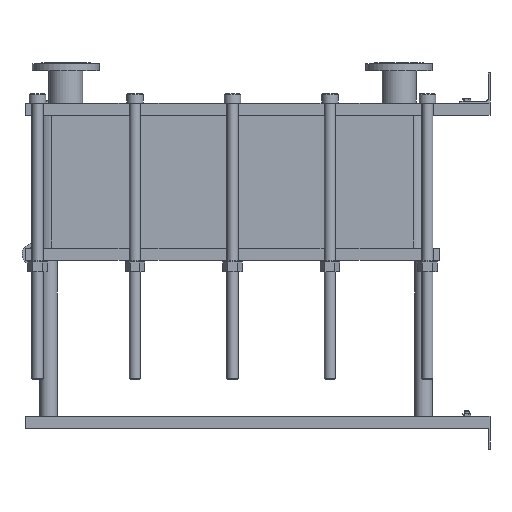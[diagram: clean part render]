
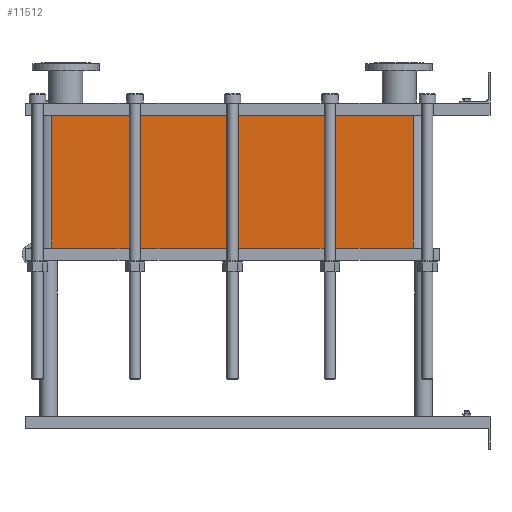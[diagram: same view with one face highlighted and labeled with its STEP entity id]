
A CAD part, left-side view. The second image highlights one B-rep face of the part: STEP entity #11512.
In plain terms, the highlighted planar face has unit normal (-1, 0, 0).
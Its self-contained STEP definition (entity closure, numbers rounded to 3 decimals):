
#1129=LINE('',#23232,#2102);
#1130=LINE('',#23236,#2103);
#1131=LINE('',#23238,#2104);
#1132=LINE('',#23239,#2105);
#2102=VECTOR('',#15887,10.);
#2103=VECTOR('',#15892,10.);
#2104=VECTOR('',#15893,10.);
#2105=VECTOR('',#15894,10.);
#3267=FACE_OUTER_BOUND('',#4093,.T.);
#4093=EDGE_LOOP('',(#10103,#10104,#10105,#10106));
#5642=VERTEX_POINT('',#23229);
#5643=VERTEX_POINT('',#23231);
#5644=VERTEX_POINT('',#23235);
#5645=VERTEX_POINT('',#23237);
#7159=EDGE_CURVE('',#5643,#5642,#1129,.T.);
#7161=EDGE_CURVE('',#5642,#5644,#1130,.T.);
#7162=EDGE_CURVE('',#5645,#5644,#1131,.T.);
#7163=EDGE_CURVE('',#5645,#5643,#1132,.T.);
#10103=ORIENTED_EDGE('',*,*,#7161,.T.);
#10104=ORIENTED_EDGE('',*,*,#7162,.F.);
#10105=ORIENTED_EDGE('',*,*,#7163,.T.);
#10106=ORIENTED_EDGE('',*,*,#7159,.T.);
#10857=PLANE('',#12751);
#11512=ADVANCED_FACE('',(#3267),#10857,.T.);
#12751=AXIS2_PLACEMENT_3D('',#23234,#15890,#15891);
#15887=DIRECTION('',(0.,0.,-1.));
#15890=DIRECTION('center_axis',(-1.,0.,0.));
#15891=DIRECTION('ref_axis',(0.,1.,0.));
#15892=DIRECTION('',(0.,-1.,0.));
#15893=DIRECTION('',(0.,0.,-1.));
#15894=DIRECTION('',(0.,1.,0.));
#23229=CARTESIAN_POINT('',(-200.,1414.,-427.8));
#23231=CARTESIAN_POINT('',(-200.,1414.,0.));
#23232=CARTESIAN_POINT('',(-200.,1414.,0.));
#23234=CARTESIAN_POINT('Origin',(-200.,248.,0.));
#23235=CARTESIAN_POINT('',(-200.,248.,-427.8));
#23236=CARTESIAN_POINT('',(-200.,539.5,-427.8));
#23237=CARTESIAN_POINT('',(-200.,248.,0.));
#23238=CARTESIAN_POINT('',(-200.,248.,0.));
#23239=CARTESIAN_POINT('',(-200.,248.,0.));
